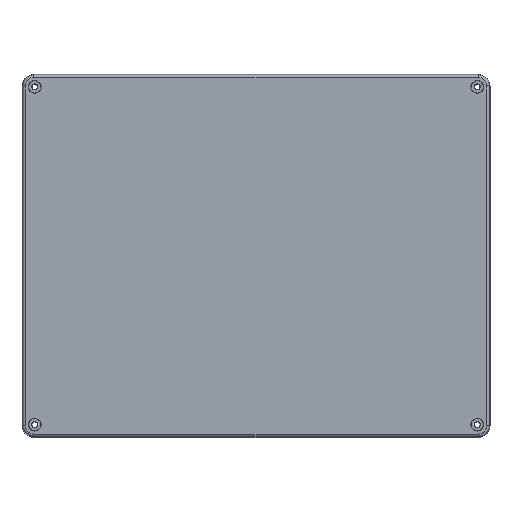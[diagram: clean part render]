
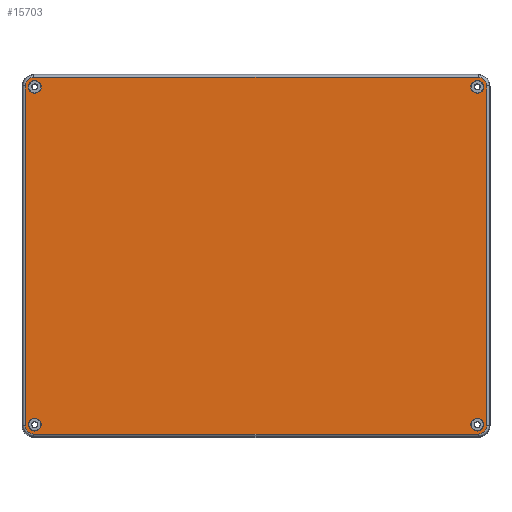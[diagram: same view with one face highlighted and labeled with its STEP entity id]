
A CAD part, top view. The second image highlights one B-rep face of the part: STEP entity #15703.
In plain terms, the highlighted planar face has unit normal (0, 0, 1) as drawn and (0, 0, -1) by its records, which use the part's own axes.
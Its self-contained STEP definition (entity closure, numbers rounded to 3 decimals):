
#179 = EDGE_CURVE ( 'NONE', #9691, #19196, #21025, .T. ) ;
#269 = VERTEX_POINT ( 'NONE', #12677 ) ;
#810 = EDGE_CURVE ( 'NONE', #12800, #8550, #3187, .T. ) ;
#838 = DIRECTION ( 'NONE',  ( 0., 0., -1. ) ) ;
#918 = CIRCLE ( 'NONE', #6563, 5.5 ) ;
#1173 = DIRECTION ( 'NONE',  ( 1., 0., 0. ) ) ;
#1207 = EDGE_CURVE ( 'NONE', #13090, #13779, #3928, .T. ) ;
#1389 = CARTESIAN_POINT ( 'NONE',  ( 199.67, -146.8, 0. ) ) ;
#1411 = EDGE_CURVE ( 'NONE', #21089, #11041, #10953, .T. ) ;
#1585 = FACE_BOUND ( 'NONE', #20608, .T. ) ;
#1728 = DIRECTION ( 'NONE',  ( 0., 0., -1. ) ) ;
#1889 = DIRECTION ( 'NONE',  ( -1., 0., 0. ) ) ;
#1934 = EDGE_LOOP ( 'NONE', ( #2071, #2020, #18821, #3055, #8519, #17046, #3999, #20514 ) ) ;
#2020 = ORIENTED_EDGE ( 'NONE', *, *, #11126, .T. ) ;
#2070 = DIRECTION ( 'NONE',  ( -1., 0., 0. ) ) ;
#2071 = ORIENTED_EDGE ( 'NONE', *, *, #4215, .T. ) ;
#2152 = AXIS2_PLACEMENT_3D ( 'NONE', #7718, #19131, #9276 ) ;
#2379 = CARTESIAN_POINT ( 'NONE',  ( 192.3, -146.8, 0. ) ) ;
#2495 = DIRECTION ( 'NONE',  ( -1., 0., 0. ) ) ;
#2558 = DIRECTION ( 'NONE',  ( 0., 0., 1. ) ) ;
#2793 = AXIS2_PLACEMENT_3D ( 'NONE', #17890, #20914, #14372 ) ;
#3055 = ORIENTED_EDGE ( 'NONE', *, *, #1411, .T. ) ;
#3130 = CARTESIAN_POINT ( 'NONE',  ( -191.25, -146., 0. ) ) ;
#3187 = CIRCLE ( 'NONE', #2793, 5.5 ) ;
#3928 = CIRCLE ( 'NONE', #11004, 5.5 ) ;
#3999 = ORIENTED_EDGE ( 'NONE', *, *, #16153, .T. ) ;
#4215 = EDGE_CURVE ( 'NONE', #10781, #9272, #12447, .T. ) ;
#4232 = DIRECTION ( 'NONE',  ( 0., 0., -1. ) ) ;
#4309 = EDGE_CURVE ( 'NONE', #9985, #269, #8309, .T. ) ;
#4795 = DIRECTION ( 'NONE',  ( 0., -1., 0. ) ) ;
#4806 = EDGE_LOOP ( 'NONE', ( #19859, #12667 ) ) ;
#4815 = ORIENTED_EDGE ( 'NONE', *, *, #1207, .F. ) ;
#5404 = ORIENTED_EDGE ( 'NONE', *, *, #14857, .F. ) ;
#5426 = VECTOR ( 'NONE', #18650, 1000. ) ;
#5443 = VECTOR ( 'NONE', #21044, 1000. ) ;
#5759 = DIRECTION ( 'NONE',  ( 0., 1., 0. ) ) ;
#5805 = CARTESIAN_POINT ( 'NONE',  ( 196.75, 146., 0. ) ) ;
#6046 = AXIS2_PLACEMENT_3D ( 'NONE', #20551, #2558, #18887 ) ;
#6224 = FACE_BOUND ( 'NONE', #9310, .T. ) ;
#6563 = AXIS2_PLACEMENT_3D ( 'NONE', #8617, #20140, #2070 ) ;
#6621 = CIRCLE ( 'NONE', #21257, 7.37 ) ;
#6736 = CIRCLE ( 'NONE', #20765, 5.5 ) ;
#7192 = CARTESIAN_POINT ( 'NONE',  ( 196.75, -146., 0. ) ) ;
#7533 = FACE_BOUND ( 'NONE', #17422, .T. ) ;
#7630 = CARTESIAN_POINT ( 'NONE',  ( -199.67, -146.8, 0. ) ) ;
#7718 = CARTESIAN_POINT ( 'NONE',  ( -191.25, 146., 0. ) ) ;
#7784 = FACE_OUTER_BOUND ( 'NONE', #1934, .T. ) ;
#7906 = CARTESIAN_POINT ( 'NONE',  ( 0., 154.17, 0. ) ) ;
#8111 = ORIENTED_EDGE ( 'NONE', *, *, #4309, .F. ) ;
#8159 = DIRECTION ( 'NONE',  ( 0., 0., -1. ) ) ;
#8309 = CIRCLE ( 'NONE', #2152, 5.5 ) ;
#8519 = ORIENTED_EDGE ( 'NONE', *, *, #8702, .T. ) ;
#8550 = VERTEX_POINT ( 'NONE', #9306 ) ;
#8617 = CARTESIAN_POINT ( 'NONE',  ( 191.25, -146., 0. ) ) ;
#8702 = EDGE_CURVE ( 'NONE', #11041, #9691, #18957, .T. ) ;
#8793 = CARTESIAN_POINT ( 'NONE',  ( -199.67, 146.8, 0. ) ) ;
#9180 = CIRCLE ( 'NONE', #12985, 5.5 ) ;
#9245 = VERTEX_POINT ( 'NONE', #11514 ) ;
#9271 = DIRECTION ( 'NONE',  ( -1., 0., 0. ) ) ;
#9272 = VERTEX_POINT ( 'NONE', #8793 ) ;
#9276 = DIRECTION ( 'NONE',  ( -1., 0., 0. ) ) ;
#9306 = CARTESIAN_POINT ( 'NONE',  ( -196.75, -146., 0. ) ) ;
#9310 = EDGE_LOOP ( 'NONE', ( #12891, #19735 ) ) ;
#9544 = EDGE_CURVE ( 'NONE', #14143, #21089, #12715, .T. ) ;
#9691 = VERTEX_POINT ( 'NONE', #1389 ) ;
#9717 = EDGE_CURVE ( 'NONE', #8550, #12800, #6736, .T. ) ;
#9812 = DIRECTION ( 'NONE',  ( 0., 0., -1. ) ) ;
#9932 = DIRECTION ( 'NONE',  ( 1., 0., 0. ) ) ;
#9985 = VERTEX_POINT ( 'NONE', #10018 ) ;
#10018 = CARTESIAN_POINT ( 'NONE',  ( -185.75, 146., 0. ) ) ;
#10170 = DIRECTION ( 'NONE',  ( 0., 0., -1. ) ) ;
#10209 = VECTOR ( 'NONE', #4795, 1000. ) ;
#10614 = CARTESIAN_POINT ( 'NONE',  ( -192.3, 154.17, 0. ) ) ;
#10781 = VERTEX_POINT ( 'NONE', #7630 ) ;
#10790 = AXIS2_PLACEMENT_3D ( 'NONE', #17309, #838, #2495 ) ;
#10953 = CIRCLE ( 'NONE', #13370, 7.37 ) ;
#11004 = AXIS2_PLACEMENT_3D ( 'NONE', #14097, #13955, #20494 ) ;
#11041 = VERTEX_POINT ( 'NONE', #18659 ) ;
#11126 = EDGE_CURVE ( 'NONE', #9272, #14143, #13695, .T. ) ;
#11127 = VERTEX_POINT ( 'NONE', #12765 ) ;
#11132 = CARTESIAN_POINT ( 'NONE',  ( -192.3, 146.8, 0. ) ) ;
#11441 = CARTESIAN_POINT ( 'NONE',  ( 192.3, 146.8, 0. ) ) ;
#11514 = CARTESIAN_POINT ( 'NONE',  ( 185.75, -146., 0. ) ) ;
#11624 = CARTESIAN_POINT ( 'NONE',  ( -192.3, -146.8, 0. ) ) ;
#12241 = CARTESIAN_POINT ( 'NONE',  ( 185.75, 146., 0. ) ) ;
#12447 = LINE ( 'NONE', #17402, #20424 ) ;
#12667 = ORIENTED_EDGE ( 'NONE', *, *, #810, .F. ) ;
#12677 = CARTESIAN_POINT ( 'NONE',  ( -196.75, 146., 0. ) ) ;
#12691 = CARTESIAN_POINT ( 'NONE',  ( 199.67, 0., 0. ) ) ;
#12715 = LINE ( 'NONE', #7906, #5443 ) ;
#12765 = CARTESIAN_POINT ( 'NONE',  ( -192.3, -154.17, 0. ) ) ;
#12800 = VERTEX_POINT ( 'NONE', #21329 ) ;
#12853 = EDGE_CURVE ( 'NONE', #11127, #10781, #6621, .T. ) ;
#12891 = ORIENTED_EDGE ( 'NONE', *, *, #18327, .F. ) ;
#12985 = AXIS2_PLACEMENT_3D ( 'NONE', #20033, #10170, #1889 ) ;
#13003 = EDGE_CURVE ( 'NONE', #15676, #9245, #918, .T. ) ;
#13090 = VERTEX_POINT ( 'NONE', #12241 ) ;
#13370 = AXIS2_PLACEMENT_3D ( 'NONE', #11441, #8159, #19694 ) ;
#13497 = AXIS2_PLACEMENT_3D ( 'NONE', #11132, #4232, #1173 ) ;
#13695 = CIRCLE ( 'NONE', #13497, 7.37 ) ;
#13779 = VERTEX_POINT ( 'NONE', #5805 ) ;
#13955 = DIRECTION ( 'NONE',  ( 0., 0., -1. ) ) ;
#14097 = CARTESIAN_POINT ( 'NONE',  ( 191.25, 146., 0. ) ) ;
#14143 = VERTEX_POINT ( 'NONE', #10614 ) ;
#14278 = AXIS2_PLACEMENT_3D ( 'NONE', #20783, #17321, #9271 ) ;
#14372 = DIRECTION ( 'NONE',  ( -1., 0., 0. ) ) ;
#14422 = EDGE_CURVE ( 'NONE', #269, #9985, #9180, .T. ) ;
#14491 = CARTESIAN_POINT ( 'NONE',  ( 192.3, -154.17, 0. ) ) ;
#14826 = CIRCLE ( 'NONE', #10790, 5.5 ) ;
#14857 = EDGE_CURVE ( 'NONE', #13779, #13090, #14826, .T. ) ;
#15048 = ORIENTED_EDGE ( 'NONE', *, *, #14422, .F. ) ;
#15626 = DIRECTION ( 'NONE',  ( 0., 0., -1. ) ) ;
#15676 = VERTEX_POINT ( 'NONE', #7192 ) ;
#15703 = ADVANCED_FACE ( 'NONE', ( #7784, #6224, #20703, #7533, #1585 ), #20759, .F. ) ;
#16153 = EDGE_CURVE ( 'NONE', #19196, #11127, #18112, .T. ) ;
#17046 = ORIENTED_EDGE ( 'NONE', *, *, #179, .T. ) ;
#17074 = CARTESIAN_POINT ( 'NONE',  ( 0., -154.17, 0. ) ) ;
#17187 = CIRCLE ( 'NONE', #14278, 5.5 ) ;
#17309 = CARTESIAN_POINT ( 'NONE',  ( 191.25, 146., 0. ) ) ;
#17315 = AXIS2_PLACEMENT_3D ( 'NONE', #2379, #15626, #17338 ) ;
#17321 = DIRECTION ( 'NONE',  ( 0., 0., -1. ) ) ;
#17338 = DIRECTION ( 'NONE',  ( 1., 0., 0. ) ) ;
#17402 = CARTESIAN_POINT ( 'NONE',  ( -199.67, 0., 0. ) ) ;
#17422 = EDGE_LOOP ( 'NONE', ( #15048, #8111 ) ) ;
#17890 = CARTESIAN_POINT ( 'NONE',  ( -191.25, -146., 0. ) ) ;
#18112 = LINE ( 'NONE', #17074, #5426 ) ;
#18327 = EDGE_CURVE ( 'NONE', #9245, #15676, #17187, .T. ) ;
#18650 = DIRECTION ( 'NONE',  ( -1., 0., 0. ) ) ;
#18659 = CARTESIAN_POINT ( 'NONE',  ( 199.67, 146.8, 0. ) ) ;
#18821 = ORIENTED_EDGE ( 'NONE', *, *, #9544, .T. ) ;
#18887 = DIRECTION ( 'NONE',  ( 1., 0., 0. ) ) ;
#18957 = LINE ( 'NONE', #12691, #10209 ) ;
#19131 = DIRECTION ( 'NONE',  ( 0., 0., -1. ) ) ;
#19196 = VERTEX_POINT ( 'NONE', #14491 ) ;
#19660 = CARTESIAN_POINT ( 'NONE',  ( 192.3, 154.17, 0. ) ) ;
#19694 = DIRECTION ( 'NONE',  ( 1., 0., 0. ) ) ;
#19735 = ORIENTED_EDGE ( 'NONE', *, *, #13003, .F. ) ;
#19859 = ORIENTED_EDGE ( 'NONE', *, *, #9717, .F. ) ;
#20033 = CARTESIAN_POINT ( 'NONE',  ( -191.25, 146., 0. ) ) ;
#20140 = DIRECTION ( 'NONE',  ( 0., 0., -1. ) ) ;
#20424 = VECTOR ( 'NONE', #5759, 1000. ) ;
#20494 = DIRECTION ( 'NONE',  ( -1., 0., 0. ) ) ;
#20514 = ORIENTED_EDGE ( 'NONE', *, *, #12853, .T. ) ;
#20551 = CARTESIAN_POINT ( 'NONE',  ( 0., 0., 0. ) ) ;
#20608 = EDGE_LOOP ( 'NONE', ( #4815, #5404 ) ) ;
#20703 = FACE_BOUND ( 'NONE', #4806, .T. ) ;
#20759 = PLANE ( 'NONE',  #6046 ) ;
#20765 = AXIS2_PLACEMENT_3D ( 'NONE', #3130, #9812, #21347 ) ;
#20783 = CARTESIAN_POINT ( 'NONE',  ( 191.25, -146., 0. ) ) ;
#20914 = DIRECTION ( 'NONE',  ( 0., 0., -1. ) ) ;
#21025 = CIRCLE ( 'NONE', #17315, 7.37 ) ;
#21044 = DIRECTION ( 'NONE',  ( 1., 0., 0. ) ) ;
#21089 = VERTEX_POINT ( 'NONE', #19660 ) ;
#21257 = AXIS2_PLACEMENT_3D ( 'NONE', #11624, #1728, #9932 ) ;
#21329 = CARTESIAN_POINT ( 'NONE',  ( -185.75, -146., 0. ) ) ;
#21347 = DIRECTION ( 'NONE',  ( -1., 0., 0. ) ) ;
